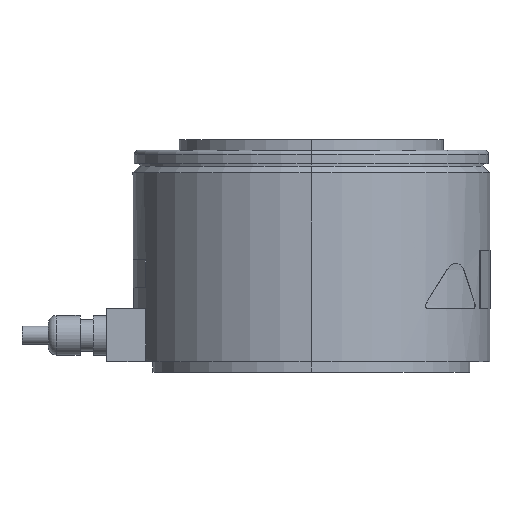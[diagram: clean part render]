
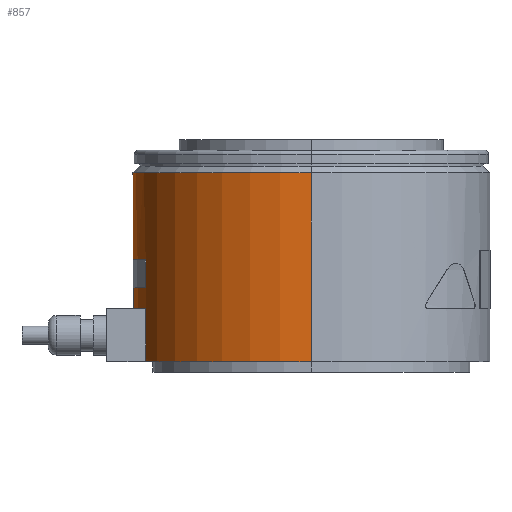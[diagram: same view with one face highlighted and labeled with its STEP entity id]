
A CAD part, left-side view. The second image highlights one B-rep face of the part: STEP entity #857.
In plain terms, the highlighted cylindrical face has radius 67.5 mm (diameter 135 mm), a partial arc.
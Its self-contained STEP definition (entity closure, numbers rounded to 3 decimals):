
#3 = EDGE_CURVE ( 'NONE', #4504, #817, #6491, .T. ) ;
#5 = AXIS2_PLACEMENT_3D ( 'NONE', #4541, #4542, #4543 ) ;
#6 = EDGE_CURVE ( 'NONE', #4503, #4535, #600, .T. ) ;
#8 = EDGE_CURVE ( 'NONE', #817, #4535, #6496, .T. ) ;
#117 = EDGE_CURVE ( 'NONE', #4534, #4533, #6344, .T. ) ;
#159 = EDGE_CURVE ( 'NONE', #4533, #4531, #1920, .T. ) ;
#164 = EDGE_CURVE ( 'NONE', #4528, #4529, #1922, .T. ) ;
#175 = EDGE_CURVE ( 'NONE', #4530, #4529, #1946, .T. ) ;
#176 = EDGE_CURVE ( 'NONE', #4504, #4503, #1948, .T. ) ;
#291 = AXIS2_PLACEMENT_3D ( 'NONE', #1199, #1201, #1202 ) ;
#294 = AXIS2_PLACEMENT_3D ( 'NONE', #1151, #1158, #1159 ) ;
#299 = AXIS2_PLACEMENT_3D ( 'NONE', #1185, #1197, #1198 ) ;
#339 = AXIS2_PLACEMENT_3D ( 'NONE', #2980, #2983, #2982 ) ;
#495 = CIRCLE ( 'NONE', #4926, 67.5 ) ;
#600 = LINE ( 'NONE', #821, #6493 ) ;
#817 = VERTEX_POINT ( 'NONE', #1065 ) ;
#821 = CARTESIAN_POINT ( 'NONE',  ( 67.5, 0., 0. ) ) ;
#823 = DIRECTION ( 'NONE',  ( 0., 0., -1. ) ) ;
#824 = CARTESIAN_POINT ( 'NONE',  ( -67.5, 0., 0. ) ) ;
#857 = ADVANCED_FACE ( 'NONE', ( #3053, #3061, #3063 ), #3057, .T. ) ;
#1065 = CARTESIAN_POINT ( 'NONE',  ( -67.5, 0., 4. ) ) ;
#1151 = CARTESIAN_POINT ( 'NONE',  ( 0., 0., 32. ) ) ;
#1158 = DIRECTION ( 'NONE',  ( 0., 0., 1. ) ) ;
#1159 = DIRECTION ( 'NONE',  ( -1., 0., 0. ) ) ;
#1169 = CARTESIAN_POINT ( 'NONE',  ( -25., 62.7, 0. ) ) ;
#1170 = DIRECTION ( 'NONE',  ( 0., 0., -1. ) ) ;
#1185 = CARTESIAN_POINT ( 'NONE',  ( 0., 0., 5. ) ) ;
#1197 = DIRECTION ( 'NONE',  ( 0., 0., 1. ) ) ;
#1198 = DIRECTION ( 'NONE',  ( -1., 0., 0. ) ) ;
#1199 = CARTESIAN_POINT ( 'NONE',  ( 0., 0., 75.5 ) ) ;
#1201 = DIRECTION ( 'NONE',  ( 0., 0., -1. ) ) ;
#1202 = DIRECTION ( 'NONE',  ( -1., 0., 0. ) ) ;
#1297 = VECTOR ( 'NONE', #6264, 1000. ) ;
#1920 = CIRCLE ( 'NONE', #294, 67.5 ) ;
#1922 = LINE ( 'NONE', #1169, #1927 ) ;
#1927 = VECTOR ( 'NONE', #1170, 1000. ) ;
#1946 = CIRCLE ( 'NONE', #299, 67.5 ) ;
#1948 = CIRCLE ( 'NONE', #291, 67.5 ) ;
#2071 = LINE ( 'NONE', #5125, #2076 ) ;
#2076 = VECTOR ( 'NONE', #5126, 1000. ) ;
#2079 = CIRCLE ( 'NONE', #4846, 67.5 ) ;
#2080 = LINE ( 'NONE', #5127, #2081 ) ;
#2081 = VECTOR ( 'NONE', #5128, 1000. ) ;
#2180 = EDGE_CURVE ( 'NONE', #4532, #4534, #2079, .T. ) ;
#2181 = EDGE_CURVE ( 'NONE', #4531, #4532, #2071, .T. ) ;
#2182 = EDGE_CURVE ( 'NONE', #4530, #4527, #2080, .T. ) ;
#2342 = EDGE_CURVE ( 'NONE', #4527, #4528, #495, .T. ) ;
#2980 = CARTESIAN_POINT ( 'NONE',  ( 0., 0., 0. ) ) ;
#2982 = DIRECTION ( 'NONE',  ( -1., 0., 0. ) ) ;
#2983 = DIRECTION ( 'NONE',  ( 0., 0., -1. ) ) ;
#3053 = FACE_BOUND ( 'NONE', #3962, .T. ) ;
#3057 = CYLINDRICAL_SURFACE ( 'NONE', #339, 67.5 ) ;
#3061 = FACE_BOUND ( 'NONE', #4071, .T. ) ;
#3063 = FACE_OUTER_BOUND ( 'NONE', #4017, .T. ) ;
#3226 = ORIENTED_EDGE ( 'NONE', *, *, #175, .F. ) ;
#3228 = ORIENTED_EDGE ( 'NONE', *, *, #164, .T. ) ;
#3230 = ORIENTED_EDGE ( 'NONE', *, *, #2342, .T. ) ;
#3962 = EDGE_LOOP ( 'NONE', ( #3230, #3228, #3226, #6361 ) ) ;
#4017 = EDGE_LOOP ( 'NONE', ( #6366, #6367, #6368, #6369 ) ) ;
#4071 = EDGE_LOOP ( 'NONE', ( #6362, #6363, #6364, #6365 ) ) ;
#4338 = CARTESIAN_POINT ( 'NONE',  ( 0., 0., 24. ) ) ;
#4345 = DIRECTION ( 'NONE',  ( 0., 0., 1. ) ) ;
#4346 = DIRECTION ( 'NONE',  ( -1., 0., 0. ) ) ;
#4503 = VERTEX_POINT ( 'NONE', #5692 ) ;
#4504 = VERTEX_POINT ( 'NONE', #5693 ) ;
#4527 = VERTEX_POINT ( 'NONE', #5716 ) ;
#4528 = VERTEX_POINT ( 'NONE', #5717 ) ;
#4529 = VERTEX_POINT ( 'NONE', #5718 ) ;
#4530 = VERTEX_POINT ( 'NONE', #5719 ) ;
#4531 = VERTEX_POINT ( 'NONE', #5720 ) ;
#4532 = VERTEX_POINT ( 'NONE', #5721 ) ;
#4533 = VERTEX_POINT ( 'NONE', #5722 ) ;
#4534 = VERTEX_POINT ( 'NONE', #5723 ) ;
#4535 = VERTEX_POINT ( 'NONE', #5724 ) ;
#4536 = DIRECTION ( 'NONE',  ( 0., 0., -1. ) ) ;
#4541 = CARTESIAN_POINT ( 'NONE',  ( 0., 0., 4. ) ) ;
#4542 = DIRECTION ( 'NONE',  ( 0., 0., -1. ) ) ;
#4543 = DIRECTION ( 'NONE',  ( -1., 0., 0. ) ) ;
#4846 = AXIS2_PLACEMENT_3D ( 'NONE', #5117, #5123, #5124 ) ;
#4926 = AXIS2_PLACEMENT_3D ( 'NONE', #4338, #4345, #4346 ) ;
#5117 = CARTESIAN_POINT ( 'NONE',  ( 0., 0., 42.5 ) ) ;
#5123 = DIRECTION ( 'NONE',  ( 0., 0., -1. ) ) ;
#5124 = DIRECTION ( 'NONE',  ( 1., 0., 0. ) ) ;
#5125 = CARTESIAN_POINT ( 'NONE',  ( -25., 62.7, 0. ) ) ;
#5126 = DIRECTION ( 'NONE',  ( 0., 0., 1. ) ) ;
#5127 = CARTESIAN_POINT ( 'NONE',  ( 25., 62.7, 0. ) ) ;
#5128 = DIRECTION ( 'NONE',  ( 0., 0., 1. ) ) ;
#5692 = CARTESIAN_POINT ( 'NONE',  ( 67.5, 0., 75.5 ) ) ;
#5693 = CARTESIAN_POINT ( 'NONE',  ( -67.5, 0., 75.5 ) ) ;
#5716 = CARTESIAN_POINT ( 'NONE',  ( 25., 62.7, 24. ) ) ;
#5717 = CARTESIAN_POINT ( 'NONE',  ( -25., 62.7, 24. ) ) ;
#5718 = CARTESIAN_POINT ( 'NONE',  ( -25., 62.7, 5. ) ) ;
#5719 = CARTESIAN_POINT ( 'NONE',  ( 25., 62.7, 5. ) ) ;
#5720 = CARTESIAN_POINT ( 'NONE',  ( -25., 62.7, 32. ) ) ;
#5721 = CARTESIAN_POINT ( 'NONE',  ( -25., 62.7, 42.5 ) ) ;
#5722 = CARTESIAN_POINT ( 'NONE',  ( 25., 62.7, 32. ) ) ;
#5723 = CARTESIAN_POINT ( 'NONE',  ( 25., 62.7, 42.5 ) ) ;
#5724 = CARTESIAN_POINT ( 'NONE',  ( 67.5, 0., 4. ) ) ;
#6261 = CARTESIAN_POINT ( 'NONE',  ( 25., 62.7, 0. ) ) ;
#6264 = DIRECTION ( 'NONE',  ( 0., 0., -1. ) ) ;
#6344 = LINE ( 'NONE', #6261, #1297 ) ;
#6361 = ORIENTED_EDGE ( 'NONE', *, *, #2182, .T. ) ;
#6362 = ORIENTED_EDGE ( 'NONE', *, *, #2181, .F. ) ;
#6363 = ORIENTED_EDGE ( 'NONE', *, *, #159, .F. ) ;
#6364 = ORIENTED_EDGE ( 'NONE', *, *, #117, .F. ) ;
#6365 = ORIENTED_EDGE ( 'NONE', *, *, #2180, .F. ) ;
#6366 = ORIENTED_EDGE ( 'NONE', *, *, #176, .T. ) ;
#6367 = ORIENTED_EDGE ( 'NONE', *, *, #6, .T. ) ;
#6368 = ORIENTED_EDGE ( 'NONE', *, *, #8, .F. ) ;
#6369 = ORIENTED_EDGE ( 'NONE', *, *, #3, .F. ) ;
#6491 = LINE ( 'NONE', #824, #6492 ) ;
#6492 = VECTOR ( 'NONE', #4536, 1000. ) ;
#6493 = VECTOR ( 'NONE', #823, 1000. ) ;
#6496 = CIRCLE ( 'NONE', #5, 67.5 ) ;
